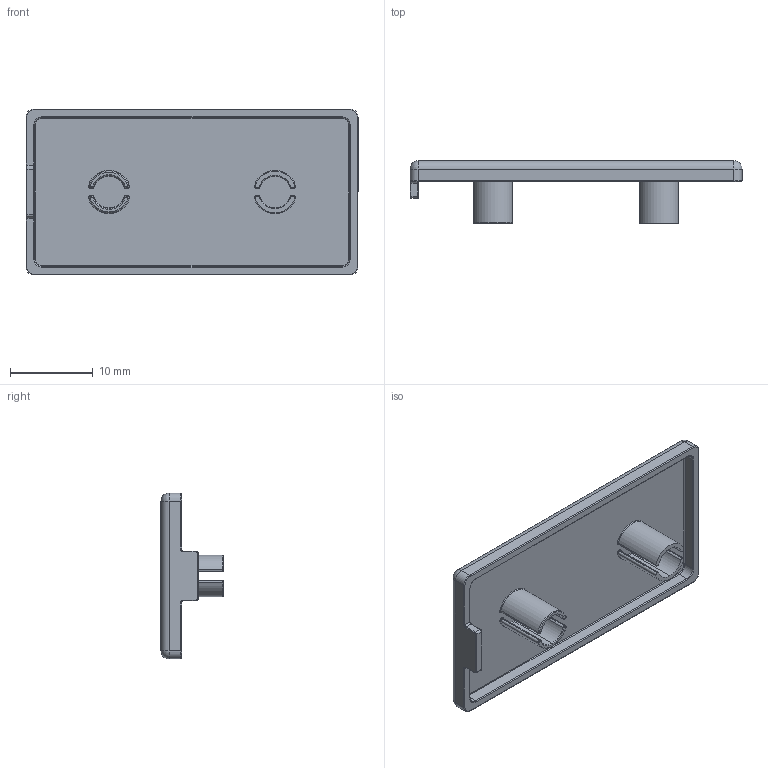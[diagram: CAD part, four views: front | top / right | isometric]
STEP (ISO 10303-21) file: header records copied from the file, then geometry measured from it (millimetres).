
FILE_DESCRIPTION (( 'STEP AP214' ), '1' );
FILE_NAME ('4007.STEP', '2015-05-07T10:35:30', ( '' ), ( '' ), 'SwSTEP 2.0', 'SolidWorks 2014', '' );
FILE_SCHEMA (( 'AUTOMOTIVE_DESIGN' ));
Length unit declared in the file: millimetre
Products named in the file (1): 4007
Bounding box: 40 x 7.5 x 20 mm (x, y, z)
Volume: 1037.2 mm3; surface area: 2347.7 mm2
Topology: 1 solids, 1 shells, 168 faces, 384 edges, 218 vertices
Faces by surface type: cylinder 76, torus 62, plane 26, sphere 4
Entity records: 4734 total; most frequent: DIRECTION 962, CARTESIAN_POINT 767, ORIENTED_EDGE 760, AXIS2_PLACEMENT_3D 413, EDGE_CURVE 380, CIRCLE 244, VERTEX_POINT 218, EDGE_LOOP 172
